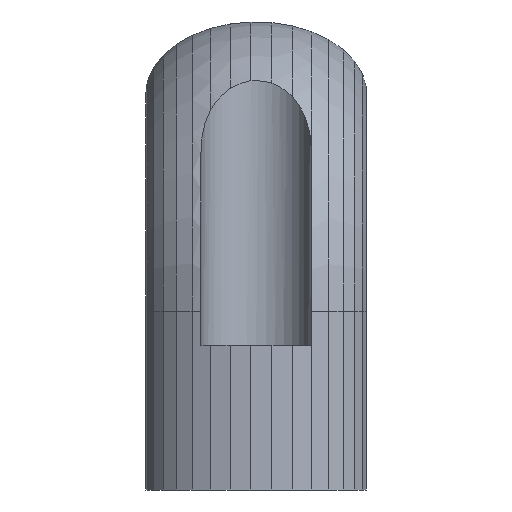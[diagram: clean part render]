
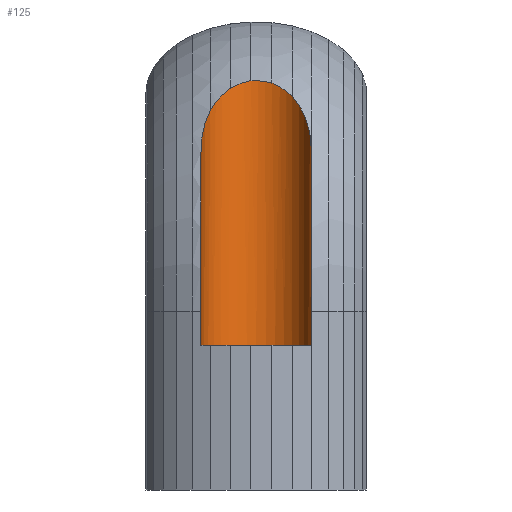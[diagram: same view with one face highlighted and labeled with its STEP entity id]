
A CAD part, left-side view. The second image highlights one B-rep face of the part: STEP entity #125.
In plain terms, the highlighted cylindrical face has radius 6.5 mm (diameter 13 mm), a partial arc.
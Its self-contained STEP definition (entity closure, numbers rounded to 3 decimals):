
#125 = ADVANCED_FACE( '', ( #356 ), #357, .F. );
#356 = FACE_OUTER_BOUND( '', #720, .T. );
#357 = CYLINDRICAL_SURFACE( '', #721, 6.5 );
#720 = EDGE_LOOP( '', ( #1373, #1374, #1375, #1376, #1377, #1378, #1379, #1380, #1381 ) );
#721 = AXIS2_PLACEMENT_3D( '', #1382, #1383, #1384 );
#1373 = ORIENTED_EDGE( '', *, *, #2503, .F. );
#1374 = ORIENTED_EDGE( '', *, *, #2504, .T. );
#1375 = ORIENTED_EDGE( '', *, *, #2505, .T. );
#1376 = ORIENTED_EDGE( '', *, *, #2499, .T. );
#1377 = ORIENTED_EDGE( '', *, *, #2506, .T. );
#1378 = ORIENTED_EDGE( '', *, *, #2343, .T. );
#1379 = ORIENTED_EDGE( '', *, *, #2507, .T. );
#1380 = ORIENTED_EDGE( '', *, *, #2508, .T. );
#1381 = ORIENTED_EDGE( '', *, *, #2509, .T. );
#1382 = CARTESIAN_POINT( '', ( -75., 0., -67.98 ) );
#1383 = DIRECTION( '', ( 0., 0., 1. ) );
#1384 = DIRECTION( '', ( 0.958, 0.286, 0. ) );
#2343 = EDGE_CURVE( '', #2772, #2773, #2774, .T. );
#2499 = EDGE_CURVE( '', #3045, #3046, #3047, .T. );
#2503 = EDGE_CURVE( '', #3052, #3053, #3054, .T. );
#2504 = EDGE_CURVE( '', #3052, #3055, #3056, .F. );
#2505 = EDGE_CURVE( '', #3055, #3045, #3057, .T. );
#2506 = EDGE_CURVE( '', #3046, #2772, #3058, .T. );
#2507 = EDGE_CURVE( '', #2773, #3059, #3060, .T. );
#2508 = EDGE_CURVE( '', #3059, #3061, #3062, .T. );
#2509 = EDGE_CURVE( '', #3061, #3053, #3063, .T. );
#2772 = VERTEX_POINT( '', #3427 );
#2773 = VERTEX_POINT( '', #3428 );
#2774 = B_SPLINE_CURVE_WITH_KNOTS( '', 3, ( #3429, #3430, #3431, #3432, #3433, #3434 ), .UNSPECIFIED., .F., .F., ( 4, 2, 4 ), ( 0., 0.001, 0.003 ), .UNSPECIFIED. );
#3045 = VERTEX_POINT( '', #3862 );
#3046 = VERTEX_POINT( '', #3863 );
#3047 = B_SPLINE_CURVE_WITH_KNOTS( '', 3, ( #3864, #3865, #3866, #3867, #3868, #3869, #3870, #3871, #3872, #3873 ), .UNSPECIFIED., .F., .F., ( 4, 2, 2, 2, 4 ), ( 0., 0.004, 0.005, 0.006, 0.009 ), .UNSPECIFIED. );
#3052 = VERTEX_POINT( '', #3879 );
#3053 = VERTEX_POINT( '', #3880 );
#3054 = LINE( '', #3881, #3882 );
#3055 = VERTEX_POINT( '', #3883 );
#3056 = CIRCLE( '', #3884, 6.5 );
#3057 = LINE( '', #3885, #3886 );
#3058 = B_SPLINE_CURVE_WITH_KNOTS( '', 3, ( #3887, #3888, #3889, #3890, #3891, #3892 ), .UNSPECIFIED., .F., .F., ( 4, 2, 4 ), ( 0., 0.002, 0.003 ), .UNSPECIFIED. );
#3059 = VERTEX_POINT( '', #3893 );
#3060 = B_SPLINE_CURVE_WITH_KNOTS( '', 3, ( #3894, #3895, #3896, #3897, #3898, #3899 ), .UNSPECIFIED., .F., .F., ( 4, 2, 4 ), ( 0., 0.001, 0.003 ), .UNSPECIFIED. );
#3061 = VERTEX_POINT( '', #3900 );
#3062 = B_SPLINE_CURVE_WITH_KNOTS( '', 3, ( #3901, #3902, #3903, #3904, #3905, #3906 ), .UNSPECIFIED., .F., .F., ( 4, 2, 4 ), ( 0., 0.002, 0.004 ), .UNSPECIFIED. );
#3063 = B_SPLINE_CURVE_WITH_KNOTS( '', 3, ( #3907, #3908, #3909, #3910, #3911, #3912, #3913, #3914 ), .UNSPECIFIED., .F., .F., ( 4, 2, 2, 4 ), ( 0., 0.003, 0.005, 0.006 ), .UNSPECIFIED. );
#3427 = CARTESIAN_POINT( '', ( -68.769, -1.85, 47.81 ) );
#3428 = CARTESIAN_POINT( '', ( -68.529, 0.619, 48.09 ) );
#3429 = CARTESIAN_POINT( '', ( -68.769, -1.85, 47.81 ) );
#3430 = CARTESIAN_POINT( '', ( -68.652, -1.458, 47.916 ) );
#3431 = CARTESIAN_POINT( '', ( -68.573, -1.055, 47.992 ) );
#3432 = CARTESIAN_POINT( '', ( -68.491, -0.228, 48.087 ) );
#3433 = CARTESIAN_POINT( '', ( -68.489, 0.198, 48.104 ) );
#3434 = CARTESIAN_POINT( '', ( -68.529, 0.619, 48.09 ) );
#3862 = CARTESIAN_POINT( '', ( -75., -6.5, 39.731 ) );
#3863 = CARTESIAN_POINT( '', ( -70.084, -4.252, 46.234 ) );
#3864 = CARTESIAN_POINT( '', ( -75., -6.5, 39.731 ) );
#3865 = CARTESIAN_POINT( '', ( -74.179, -6.5, 40.915 ) );
#3866 = CARTESIAN_POINT( '', ( -73.333, -6.349, 42.047 ) );
#3867 = CARTESIAN_POINT( '', ( -72.278, -5.907, 43.41 ) );
#3868 = CARTESIAN_POINT( '', ( -72.068, -5.806, 43.68 ) );
#3869 = CARTESIAN_POINT( '', ( -71.648, -5.574, 44.216 ) );
#3870 = CARTESIAN_POINT( '', ( -71.439, -5.444, 44.482 ) );
#3871 = CARTESIAN_POINT( '', ( -70.829, -5.01, 45.261 ) );
#3872 = CARTESIAN_POINT( '', ( -70.441, -4.665, 45.758 ) );
#3873 = CARTESIAN_POINT( '', ( -70.084, -4.252, 46.234 ) );
#3879 = CARTESIAN_POINT( '', ( -75., 6.5, 17. ) );
#3880 = CARTESIAN_POINT( '', ( -75., 6.5, 39.653 ) );
#3881 = CARTESIAN_POINT( '', ( -75., 6.5, -67.98 ) );
#3882 = VECTOR( '', #4605, 1000. );
#3883 = CARTESIAN_POINT( '', ( -75., -6.5, 17. ) );
#3884 = AXIS2_PLACEMENT_3D( '', #4606, #4607, #4608 );
#3885 = CARTESIAN_POINT( '', ( -75., -6.5, -67.98 ) );
#3886 = VECTOR( '', #4609, 1000. );
#3887 = CARTESIAN_POINT( '', ( -70.084, -4.252, 46.234 ) );
#3888 = CARTESIAN_POINT( '', ( -69.802, -3.926, 46.549 ) );
#3889 = CARTESIAN_POINT( '', ( -69.546, -3.565, 46.839 ) );
#3890 = CARTESIAN_POINT( '', ( -69.1, -2.767, 47.366 ) );
#3891 = CARTESIAN_POINT( '', ( -68.91, -2.324, 47.606 ) );
#3892 = CARTESIAN_POINT( '', ( -68.769, -1.85, 47.81 ) );
#3893 = CARTESIAN_POINT( '', ( -69.268, 3.065, 47.219 ) );
#3894 = CARTESIAN_POINT( '', ( -68.529, 0.619, 48.09 ) );
#3895 = CARTESIAN_POINT( '', ( -68.572, 1.066, 48.005 ) );
#3896 = CARTESIAN_POINT( '', ( -68.659, 1.493, 47.888 ) );
#3897 = CARTESIAN_POINT( '', ( -68.91, 2.311, 47.597 ) );
#3898 = CARTESIAN_POINT( '', ( -69.074, 2.703, 47.42 ) );
#3899 = CARTESIAN_POINT( '', ( -69.268, 3.065, 47.219 ) );
#3900 = CARTESIAN_POINT( '', ( -71.383, 5.4, 44.614 ) );
#3901 = CARTESIAN_POINT( '', ( -69.268, 3.065, 47.219 ) );
#3902 = CARTESIAN_POINT( '', ( -69.544, 3.581, 46.845 ) );
#3903 = CARTESIAN_POINT( '', ( -69.869, 4.025, 46.44 ) );
#3904 = CARTESIAN_POINT( '', ( -70.583, 4.798, 45.571 ) );
#3905 = CARTESIAN_POINT( '', ( -70.976, 5.128, 45.103 ) );
#3906 = CARTESIAN_POINT( '', ( -71.383, 5.4, 44.614 ) );
#3907 = CARTESIAN_POINT( '', ( -71.383, 5.4, 44.614 ) );
#3908 = CARTESIAN_POINT( '', ( -71.967, 5.792, 43.827 ) );
#3909 = CARTESIAN_POINT( '', ( -72.572, 6.063, 43.024 ) );
#3910 = CARTESIAN_POINT( '', ( -73.484, 6.329, 41.785 ) );
#3911 = CARTESIAN_POINT( '', ( -73.789, 6.394, 41.366 ) );
#3912 = CARTESIAN_POINT( '', ( -74.398, 6.479, 40.516 ) );
#3913 = CARTESIAN_POINT( '', ( -74.701, 6.5, 40.086 ) );
#3914 = CARTESIAN_POINT( '', ( -75., 6.5, 39.653 ) );
#4605 = DIRECTION( '', ( 0., 0., 1. ) );
#4606 = CARTESIAN_POINT( '', ( -75., 0., 17. ) );
#4607 = DIRECTION( '', ( 0., 0., 1. ) );
#4608 = DIRECTION( '', ( 1., 0., 0. ) );
#4609 = DIRECTION( '', ( 0., 0., 1. ) );
